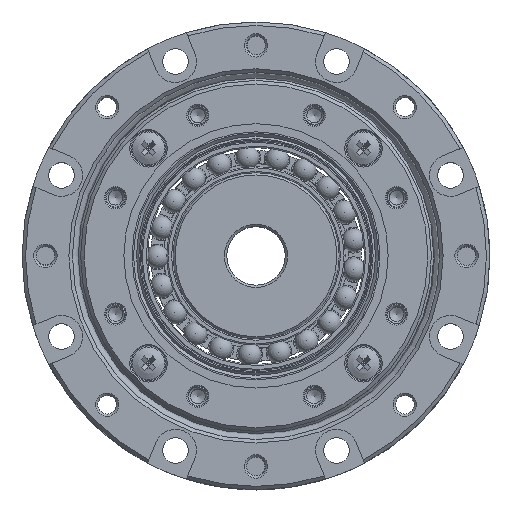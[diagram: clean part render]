
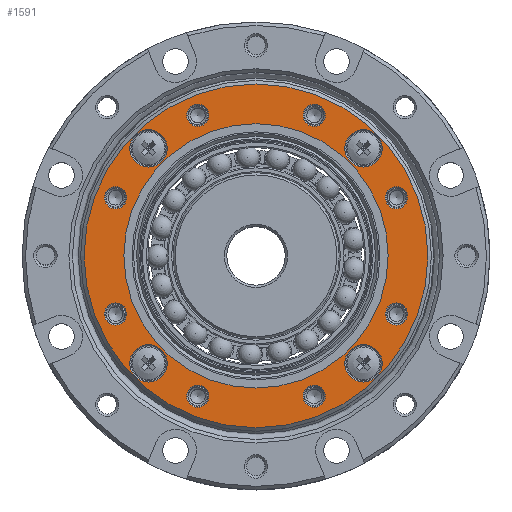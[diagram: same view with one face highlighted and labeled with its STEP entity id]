
A CAD part, top view. The second image highlights one B-rep face of the part: STEP entity #1591.
In plain terms, the highlighted planar face has unit normal (0, 0, 1).
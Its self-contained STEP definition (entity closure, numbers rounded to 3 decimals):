
#1287=PLANE('',#7789);
#1591=ADVANCED_FACE('',(#2832,#2833,#2834,#2835,#2836,#2837,#2838,#2839,
#2840,#2841,#2842,#2843,#2844,#2845),#1287,.F.);
#2288=CIRCLE('',#7775,11.3);
#2289=CIRCLE('',#7776,0.95);
#2290=CIRCLE('',#7777,0.95);
#2291=CIRCLE('',#7778,0.95);
#2292=CIRCLE('',#7779,0.95);
#2293=CIRCLE('',#7780,0.95);
#2294=CIRCLE('',#7781,0.95);
#2295=CIRCLE('',#7782,0.95);
#2296=CIRCLE('',#7783,1.6);
#2297=CIRCLE('',#7784,1.6);
#2298=CIRCLE('',#7785,1.6);
#2299=CIRCLE('',#7786,0.95);
#2300=CIRCLE('',#7787,1.6);
#2301=CIRCLE('',#7788,14.7);
#2832=FACE_BOUND('',#3648,.T.);
#2833=FACE_BOUND('',#3649,.T.);
#2834=FACE_BOUND('',#3650,.T.);
#2835=FACE_BOUND('',#3651,.T.);
#2836=FACE_BOUND('',#3652,.T.);
#2837=FACE_BOUND('',#3653,.T.);
#2838=FACE_BOUND('',#3654,.T.);
#2839=FACE_BOUND('',#3655,.T.);
#2840=FACE_BOUND('',#3656,.T.);
#2841=FACE_BOUND('',#3657,.T.);
#2842=FACE_BOUND('',#3658,.T.);
#2843=FACE_BOUND('',#3659,.T.);
#2844=FACE_BOUND('',#3660,.T.);
#2845=FACE_BOUND('',#3661,.T.);
#3648=EDGE_LOOP('',(#5016));
#3649=EDGE_LOOP('',(#5017));
#3650=EDGE_LOOP('',(#5018));
#3651=EDGE_LOOP('',(#5019));
#3652=EDGE_LOOP('',(#5020));
#3653=EDGE_LOOP('',(#5021));
#3654=EDGE_LOOP('',(#5022));
#3655=EDGE_LOOP('',(#5023));
#3656=EDGE_LOOP('',(#5024));
#3657=EDGE_LOOP('',(#5025));
#3658=EDGE_LOOP('',(#5026));
#3659=EDGE_LOOP('',(#5027));
#3660=EDGE_LOOP('',(#5028));
#3661=EDGE_LOOP('',(#5029));
#5016=ORIENTED_EDGE('',*,*,#6807,.F.);
#5017=ORIENTED_EDGE('',*,*,#6808,.T.);
#5018=ORIENTED_EDGE('',*,*,#6809,.T.);
#5019=ORIENTED_EDGE('',*,*,#6810,.T.);
#5020=ORIENTED_EDGE('',*,*,#6811,.T.);
#5021=ORIENTED_EDGE('',*,*,#6812,.T.);
#5022=ORIENTED_EDGE('',*,*,#6813,.T.);
#5023=ORIENTED_EDGE('',*,*,#6814,.T.);
#5024=ORIENTED_EDGE('',*,*,#6815,.T.);
#5025=ORIENTED_EDGE('',*,*,#6816,.T.);
#5026=ORIENTED_EDGE('',*,*,#6817,.T.);
#5027=ORIENTED_EDGE('',*,*,#6818,.T.);
#5028=ORIENTED_EDGE('',*,*,#6819,.T.);
#5029=ORIENTED_EDGE('',*,*,#6820,.F.);
#6034=VERTEX_POINT('',#12441);
#6035=VERTEX_POINT('',#12443);
#6036=VERTEX_POINT('',#12445);
#6037=VERTEX_POINT('',#12447);
#6038=VERTEX_POINT('',#12449);
#6039=VERTEX_POINT('',#12451);
#6040=VERTEX_POINT('',#12453);
#6041=VERTEX_POINT('',#12455);
#6042=VERTEX_POINT('',#12457);
#6043=VERTEX_POINT('',#12459);
#6044=VERTEX_POINT('',#12461);
#6045=VERTEX_POINT('',#12463);
#6046=VERTEX_POINT('',#12465);
#6047=VERTEX_POINT('',#12467);
#6807=EDGE_CURVE('',#6034,#6034,#2288,.T.);
#6808=EDGE_CURVE('',#6035,#6035,#2289,.T.);
#6809=EDGE_CURVE('',#6036,#6036,#2290,.T.);
#6810=EDGE_CURVE('',#6037,#6037,#2291,.T.);
#6811=EDGE_CURVE('',#6038,#6038,#2292,.T.);
#6812=EDGE_CURVE('',#6039,#6039,#2293,.T.);
#6813=EDGE_CURVE('',#6040,#6040,#2294,.T.);
#6814=EDGE_CURVE('',#6041,#6041,#2295,.T.);
#6815=EDGE_CURVE('',#6042,#6042,#2296,.T.);
#6816=EDGE_CURVE('',#6043,#6043,#2297,.T.);
#6817=EDGE_CURVE('',#6044,#6044,#2298,.T.);
#6818=EDGE_CURVE('',#6045,#6045,#2299,.T.);
#6819=EDGE_CURVE('',#6046,#6046,#2300,.T.);
#6820=EDGE_CURVE('',#6047,#6047,#2301,.T.);
#7775=AXIS2_PLACEMENT_3D('',#12440,#9590,#9591);
#7776=AXIS2_PLACEMENT_3D('',#12442,#9592,#9593);
#7777=AXIS2_PLACEMENT_3D('',#12444,#9594,#9595);
#7778=AXIS2_PLACEMENT_3D('',#12446,#9596,#9597);
#7779=AXIS2_PLACEMENT_3D('',#12448,#9598,#9599);
#7780=AXIS2_PLACEMENT_3D('',#12450,#9600,#9601);
#7781=AXIS2_PLACEMENT_3D('',#12452,#9602,#9603);
#7782=AXIS2_PLACEMENT_3D('',#12454,#9604,#9605);
#7783=AXIS2_PLACEMENT_3D('',#12456,#9606,#9607);
#7784=AXIS2_PLACEMENT_3D('',#12458,#9608,#9609);
#7785=AXIS2_PLACEMENT_3D('',#12460,#9610,#9611);
#7786=AXIS2_PLACEMENT_3D('',#12462,#9612,#9613);
#7787=AXIS2_PLACEMENT_3D('',#12464,#9614,#9615);
#7788=AXIS2_PLACEMENT_3D('',#12466,#9616,#9617);
#7789=AXIS2_PLACEMENT_3D('',#12468,#9618,#9619);
#9590=DIRECTION('',(0.,0.,1.));
#9591=DIRECTION('',(1.,0.,0.));
#9592=DIRECTION('',(0.,0.,-1.));
#9593=DIRECTION('',(-1.,0.,0.));
#9594=DIRECTION('',(0.,0.,-1.));
#9595=DIRECTION('',(-1.,0.,0.));
#9596=DIRECTION('',(0.,0.,-1.));
#9597=DIRECTION('',(-1.,0.,0.));
#9598=DIRECTION('',(0.,0.,-1.));
#9599=DIRECTION('',(-1.,0.,0.));
#9600=DIRECTION('',(0.,0.,-1.));
#9601=DIRECTION('',(-1.,0.,0.));
#9602=DIRECTION('',(0.,0.,-1.));
#9603=DIRECTION('',(-1.,0.,0.));
#9604=DIRECTION('',(0.,0.,-1.));
#9605=DIRECTION('',(-1.,0.,0.));
#9606=DIRECTION('',(0.,0.,-1.));
#9607=DIRECTION('',(-1.,0.,0.));
#9608=DIRECTION('',(0.,0.,-1.));
#9609=DIRECTION('',(-1.,0.,0.));
#9610=DIRECTION('',(0.,0.,-1.));
#9611=DIRECTION('',(-1.,0.,0.));
#9612=DIRECTION('',(0.,0.,-1.));
#9613=DIRECTION('',(-1.,0.,0.));
#9614=DIRECTION('',(0.,0.,-1.));
#9615=DIRECTION('',(-1.,0.,0.));
#9616=DIRECTION('',(0.,0.,-1.));
#9617=DIRECTION('',(-1.,0.,0.));
#9618=DIRECTION('',(0.,0.,-1.));
#9619=DIRECTION('',(1.,0.,0.));
#12440=CARTESIAN_POINT('',(0.,0.,3.5));
#12441=CARTESIAN_POINT('',(11.3,0.,3.5));
#12442=CARTESIAN_POINT('',(4.975,12.01,3.5));
#12443=CARTESIAN_POINT('',(4.025,12.01,3.5));
#12444=CARTESIAN_POINT('',(-4.975,12.01,3.5));
#12445=CARTESIAN_POINT('',(-5.925,12.01,3.5));
#12446=CARTESIAN_POINT('',(-12.01,4.975,3.5));
#12447=CARTESIAN_POINT('',(-12.96,4.975,3.5));
#12448=CARTESIAN_POINT('',(-12.01,-4.975,3.5));
#12449=CARTESIAN_POINT('',(-12.96,-4.975,3.5));
#12450=CARTESIAN_POINT('',(-4.975,-12.01,3.5));
#12451=CARTESIAN_POINT('',(-5.925,-12.01,3.5));
#12452=CARTESIAN_POINT('',(4.975,-12.01,3.5));
#12453=CARTESIAN_POINT('',(4.025,-12.01,3.5));
#12454=CARTESIAN_POINT('',(12.01,-4.975,3.5));
#12455=CARTESIAN_POINT('',(11.06,-4.975,3.5));
#12456=CARTESIAN_POINT('',(-9.192,9.192,3.5));
#12457=CARTESIAN_POINT('',(-10.792,9.192,3.5));
#12458=CARTESIAN_POINT('',(-9.192,-9.192,3.5));
#12459=CARTESIAN_POINT('',(-10.792,-9.192,3.5));
#12460=CARTESIAN_POINT('',(9.192,-9.192,3.5));
#12461=CARTESIAN_POINT('',(7.592,-9.192,3.5));
#12462=CARTESIAN_POINT('',(12.01,4.975,3.5));
#12463=CARTESIAN_POINT('',(11.06,4.975,3.5));
#12464=CARTESIAN_POINT('',(9.192,9.192,3.5));
#12465=CARTESIAN_POINT('',(7.592,9.192,3.5));
#12466=CARTESIAN_POINT('',(0.,0.,3.5));
#12467=CARTESIAN_POINT('',(-14.7,0.,3.5));
#12468=CARTESIAN_POINT('',(10.474,0.,3.5));
